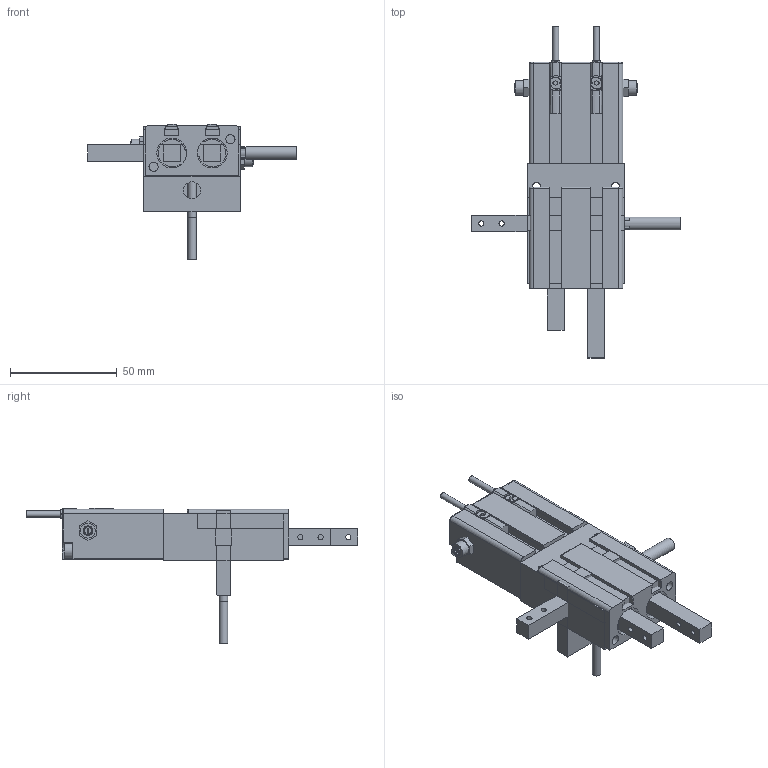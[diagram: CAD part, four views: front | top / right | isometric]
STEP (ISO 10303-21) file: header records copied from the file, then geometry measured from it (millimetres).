
FILE_DESCRIPTION( ( 'Vereinzelungsmodul' ), '1' );
FILE_NAME( 'S:/Normgeräte/Neutrale CAD Daten/PVM 1/Step/PVM1A_PVM1060.stp', '08.09.2010', ( 'MHeitzmann' ), ( 'Robo Mat AG' ), 'PSStep 13.0', 'Solid Edge', ' ' );
FILE_SCHEMA( ( 'AUTOMOTIVE_DESIGN { 1 0 10303 214 1 1 1 1 }' ) );
Length unit declared in the file: millimetre
Products named in the file (10): Assem1; PVM1116; PVM1122; PVM1121; Zylinderschraube - M4x10 - BN 612-A4; PVM1117; W+S - Hohlschraube mit Auslassdrossel - 235-5000K - M5; KOENIG - Expander - HK030-CK55-111; SICK_MTZ8_03_VP0_KP0_Bestell_Nr_1044930; Screw_DIN_EN_ISO_4762_M4x50
Bounding box: 97.7 x 155.5 x 63.5 mm (x, y, z)
Volume: 182573.8 mm3; surface area: 80867.9 mm2
Topology: 24 solids, 24 shells, 1099 faces, 2962 edges, 1950 vertices
Faces by surface type: plane 616, cylinder 400, cone 68, torus 13, sphere 2
Full cylindrical faces by diameter (mm): 0.8 x12, 1 x4, 2 x6, 2.459 x14, 2.5 x3, 2.9 x3, 3 x15, 3.1 x4, 3.242 x15, 3.5 x15, 4 x13, 4.134 x16, 4.3 x4, 4.5 x7, 5 x3, 5.4 x6, 5.8 x6, 5.999 x6, 6 x7, 7 x9, 7.2 x4, 8 x4, 9 x4, 12 x4, 14 x4
Entity records: 16426 total; most frequent: CARTESIAN_POINT 2942, DIRECTION 2088, ORIENTED_EDGE 1904, EDGE_CURVE 952, AXIS2_PLACEMENT_3D 746, VERTEX_POINT 684, EDGE_LOOP 617, LINE 596
